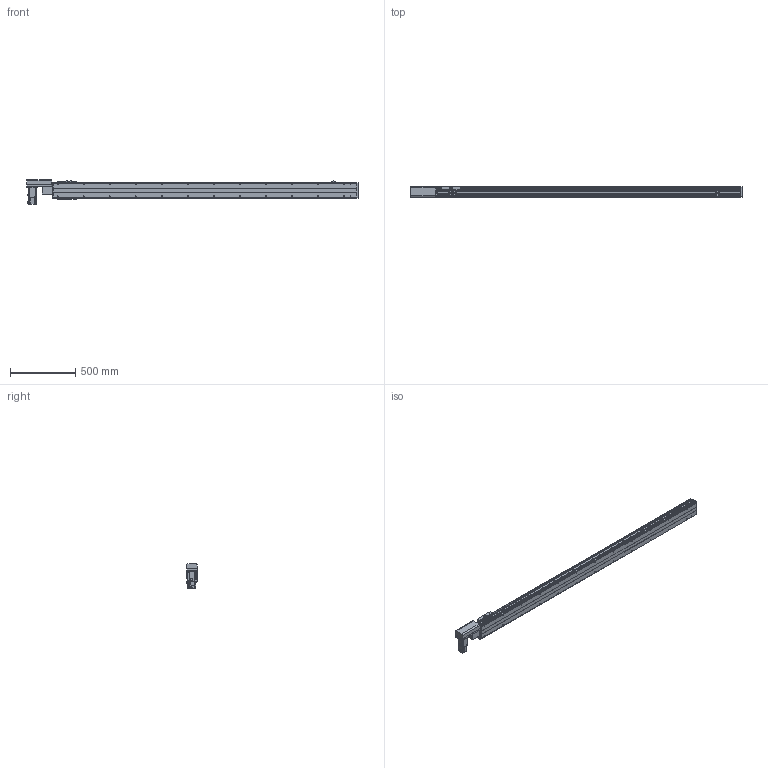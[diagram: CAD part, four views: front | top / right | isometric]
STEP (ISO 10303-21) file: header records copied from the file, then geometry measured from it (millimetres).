
FILE_DESCRIPTION( ( 'STEP AP214' ), '1' );
FILE_NAME( 'x:/temp/worker_27/temp/exporttempdir_6708_23_eTQXT/format_0/PBS120-P40-S2050-R-T40-C1-N(0).stp', '2022-06-06T00:09:20', ( 'License CC BY-ND 4.0' ), ( 'CADENAS' ), ' ', 'PARTsolutions', ' ' );
FILE_SCHEMA( ( 'AUTOMOTIVE_DESIGN { 1 0 10303 214 1 1 1 1 }' ) );
Length unit declared in the file: millimetre
Products named in the file (7): PBS120-P40-S2050-R-T40-C1-N(0); _PBS120-S2050()_body; _PBS120T-R_motors; _T40-p1; _PBS120_sliser; _PBS120_plant; _PBS120_sensor
Assembly tree (8 placements, depth 2):
  PBS120-P40-S2050-R-T40-C1-N(0)
    _PBS120-S2050()_body
    _PBS120T-R_motors
    _T40-p1
    _PBS120_sliser
    _PBS120_plant
    _PBS120_sensor  x3
Bounding box: 2551 x 83 x 189.7 mm (x, y, z)
Volume: 9378783.9 mm3; surface area: 1917974.9 mm2
Topology: 8 solids, 8 shells, 858 faces, 2206 edges, 1417 vertices
Faces by surface type: plane 559, cylinder 239, cone 58, torus 2
Full cylindrical faces by diameter (mm): 2.459 x6, 3.242 x4, 4 x2, 4.134 x4, 4.5 x10, 4.917 x30, 5.5 x11, 6 x2, 6.6 x1, 7 x2, 8.5 x4, 9 x4, 12 x1, 14 x1, 30 x2, 40 x1, 50 x2
Entity records: 28164 total; most frequent: DIRECTION 3860, CARTESIAN_POINT 3767, ORIENTED_EDGE 3562, EDGE_CURVE 1781, AXIS2_PLACEMENT_3D 1316, LINE 1228, VECTOR 1228, VERTEX_POINT 1223
